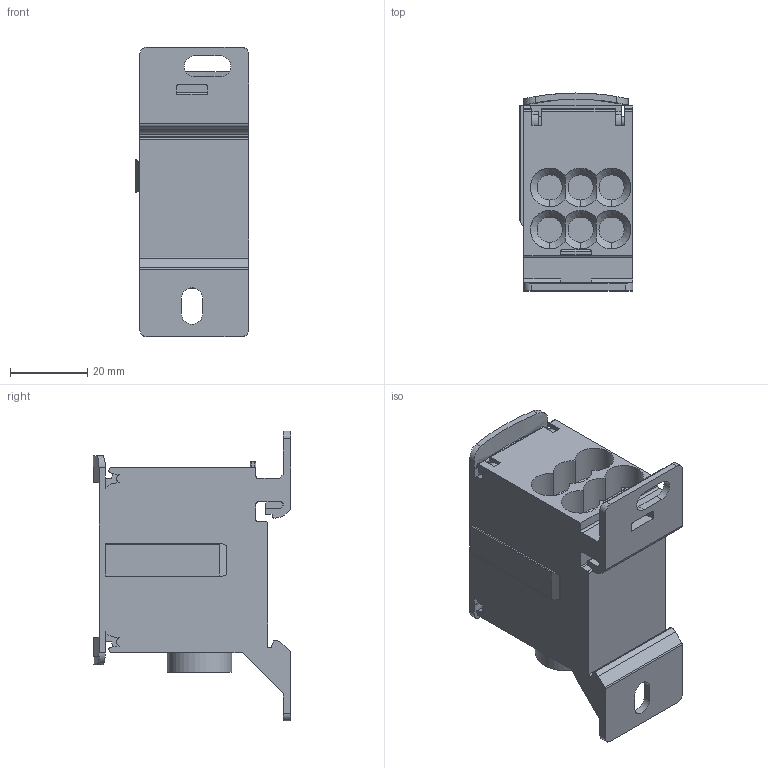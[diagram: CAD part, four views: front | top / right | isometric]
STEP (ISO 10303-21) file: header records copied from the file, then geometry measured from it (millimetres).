
FILE_DESCRIPTION(/* description */ ('Unknown'),/* implementation_level */ '2;1');
FILE_NAME(/* name */ '9D01_5_125_0206',/* time_stamp */ '2023-07-03T16:32:08+02:00',/* author */ ('Unknown'),/* organization */ ('Unknown'),/* preprocessor_version */ 'ST-DEVELOPER v18.102',/* originating_system */ 'Solid Edge',/* authorisation */ 'Unknown');
FILE_SCHEMA (('AUTOMOTIVE_DESIGN {1 0 10303 214 3 1 1}'));
Length unit declared in the file: millimetre
Products named in the file (1): 9D01_5_125_0206
Bounding box: 29.4 x 51.1 x 75 mm (x, y, z)
Volume: 56613.2 mm3; surface area: 16645.3 mm2
Topology: 1 solids, 1 shells, 332 faces, 968 edges, 641 vertices
Faces by surface type: plane 171, cylinder 145, cone 16
Entity records: 11398 total; most frequent: CARTESIAN_POINT 2289, ORIENTED_EDGE 1936, DIRECTION 1934, EDGE_CURVE 968, AXIS2_PLACEMENT_3D 664, VERTEX_POINT 641, LINE 606, VECTOR 606
